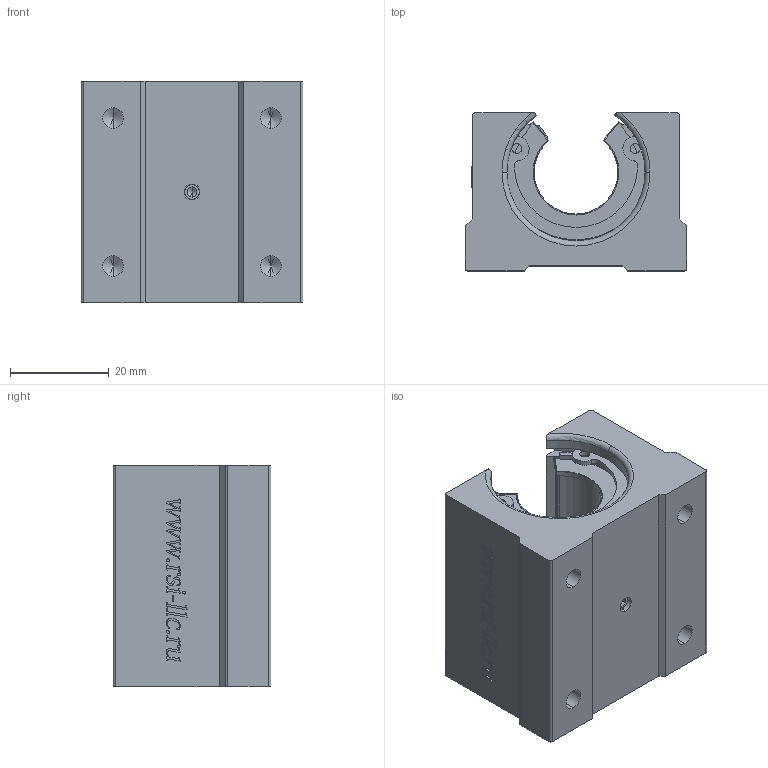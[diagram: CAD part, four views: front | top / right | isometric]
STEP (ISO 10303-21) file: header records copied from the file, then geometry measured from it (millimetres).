
FILE_DESCRIPTION (( 'STEP AP214' ), '1' );
FILE_NAME ('SBR16UU.STEP', '2020-10-19T06:42:46', ( '' ), ( '' ), 'SwSTEP 2.0', 'SolidWorks 2018', '' );
FILE_SCHEMA (( 'AUTOMOTIVE_DESIGN' ));
Length unit declared in the file: millimetre
Products named in the file (6): SBR16UU-05; SBR16UU-04; SBR16UU-03; SBR16UU-02; SBR16UU-01; SBR16UU
Assembly tree (7 placements, depth 2):
  SBR16UU
    SBR16UU-01
    SBR16UU-02
    SBR16UU-03
    SBR16UU-04  x2
    SBR16UU-05  x2
Bounding box: 45 x 32 x 45 mm (x, y, z)
Volume: 42660 mm3; surface area: 23416.6 mm2
Topology: 8 solids, 8 shells, 484 faces, 1326 edges, 871 vertices
Faces by surface type: plane 222, cylinder 130, bspline 108, cone 18, torus 6
Entity records: 21765 total; most frequent: CARTESIAN_POINT 7706, ORIENTED_EDGE 2446, DIRECTION 1913, EDGE_CURVE 1223, VERTEX_POINT 809, LINE 765, VECTOR 765, AXIS2_PLACEMENT_3D 574
